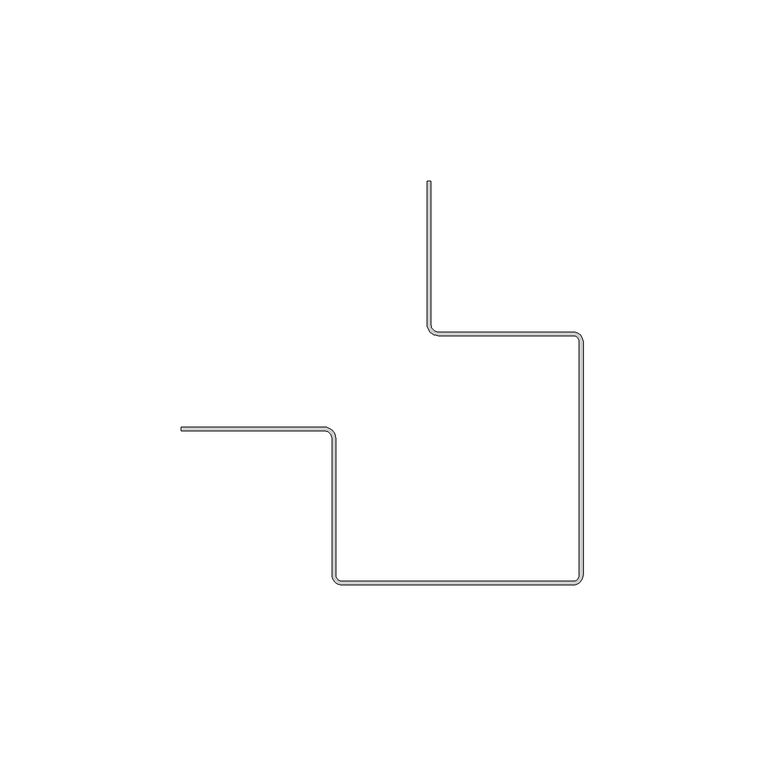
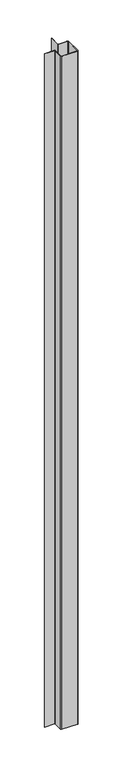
"""IFC4 building model written with IfcOpenShell, lengths in millimetres: proxy geometry, Angle sortant H : Angle sortant H."""

from ifc_helpers import new_model, si_unit, point, frame_2d, origin, origin_with_axes, place, context, project, spatial, polyline, circle_curve, trimmed, segment, composite_curve, outline, extrude, source, transform, mapped, element, save


def generic_models_60d2bb67(model_context):
    return source(origin(), model_context, "Body", "SweptSolid", [
        extrude(outline(composite_curve([segment(trimmed(circle_curve(frame_2d((-2.75, 66.9017915)), 2.75), [point((-2.75, 69.6517915))], [point((0.0, 66.9017915))], False, "CARTESIAN"), True, "CONTINUOUS"), segment(polyline([(0.0, 66.9017915), (0.0, 2.75)]), True, "CONTINUOUS"), segment(trimmed(circle_curve(frame_2d((-2.75, 2.75)), 2.75), [point((0.0, 2.75))], [point((-2.75, 0.0))], False, "CARTESIAN"), True, "CONTINUOUS"), segment(polyline([(-2.75, 0.0), (-66.4352339, 0.0)]), True, "CONTINUOUS"), segment(trimmed(circle_curve(frame_2d((-66.4352339, 2.75)), 2.75), [point((-66.4352339, 0.0))], [point((-69.1852339, 2.75))], False, "CARTESIAN"), True, "CONTINUOUS"), segment(polyline([(-69.1852339, 2.75), (-69.1852339, 40.4017915)]), True, "CONTINUOUS"), segment(trimmed(circle_curve(frame_2d((-71.1852339, 40.4017915)), 2.0), [point((-69.1852339, 40.4017915))], [point((-71.1852339, 42.4017915))], True, "CARTESIAN"), True, "CONTINUOUS"), segment(polyline([(-71.1852339, 42.4017915), (-110.6852339, 42.4017915), (-110.6852339, 43.4017915), (-71.1852339, 43.4017915)]), True, "CONTINUOUS"), segment(trimmed(circle_curve(frame_2d((-71.1852339, 40.4017915)), 3.0), [point((-71.1852339, 43.4017915))], [point((-68.1852339, 40.4017915))], False, "CARTESIAN"), True, "CONTINUOUS"), segment(polyline([(-68.1852339, 40.4017915), (-68.1852339, 2.75)]), True, "CONTINUOUS"), segment(trimmed(circle_curve(frame_2d((-66.4352339, 2.75)), 1.75), [point((-68.1852339, 2.75))], [point((-66.4352339, 1.0))], True, "CARTESIAN"), True, "CONTINUOUS"), segment(polyline([(-66.4352339, 1.0), (-2.75, 1.0)]), True, "CONTINUOUS"), segment(trimmed(circle_curve(frame_2d((-2.75, 2.75)), 1.75), [point((-2.75, 1.0))], [point((-1.0, 2.75))], True, "CARTESIAN"), True, "CONTINUOUS"), segment(polyline([(-1.0, 2.75), (-1.0, 66.9017915)]), True, "CONTINUOUS"), segment(trimmed(circle_curve(frame_2d((-2.75, 66.9017915)), 1.75), [point((-1.0, 66.9017915))], [point((-2.75, 68.6517915))], True, "CARTESIAN"), True, "CONTINUOUS"), segment(polyline([(-2.75, 68.6517915), (-39.9352339, 68.6517915)]), True, "CONTINUOUS"), segment(trimmed(circle_curve(frame_2d((-39.9352339, 71.6517915)), 3.0), [point((-39.9352339, 68.6517915))], [point((-42.9352339, 71.6517915))], False, "CARTESIAN"), True, "CONTINUOUS"), segment(polyline([(-42.9352339, 71.6517915), (-42.9352339, 111.1517915), (-41.9352339, 111.1517915), (-41.9352339, 71.6517915)]), True, "CONTINUOUS"), segment(trimmed(circle_curve(frame_2d((-39.9352339, 71.6517915)), 2.0), [point((-41.9352339, 71.6517915))], [point((-39.9352339, 69.6517915))], True, "CARTESIAN"), True, "CONTINUOUS"), segment(polyline([(-39.9352339, 69.6517915), (-2.75, 69.6517915)]), True, "CONTINUOUS")], self_intersect=False)), origin_with_axes(), (0.0, 0.0, 1.0), 2850.0),
    ])


if __name__ == "__main__":
    model = new_model("IFC4")
    model_context = context("Model", 3, world=origin())
    ifc_project = project(units=[si_unit("LENGTHUNIT", "METRE", prefix="MILLI")], contexts=[model_context])
    site = spatial("IfcSite", under=ifc_project)
    building = spatial("IfcBuilding", under=site)
    placement = place(None, origin())
    generic_models_shape = generic_models_60d2bb67(model_context)
    element("IfcBuildingElementProxy", 1, Name="Angle sortant H : Angle sortant H", ObjectType="Angle sortant H : Angle sortant H", at=placement, inside=building, context=model_context, shape_type="MappedRepresentation", body=[
        mapped(generic_models_shape, transform((0.0, 0.0, 0.0), x_axis=(1.0, 0.0, 0.0), y_axis=(0.0, 1.0, 0.0), z_axis=(0.0, 0.0, 1.0))),
    ])
    save(model, "model.ifc")
